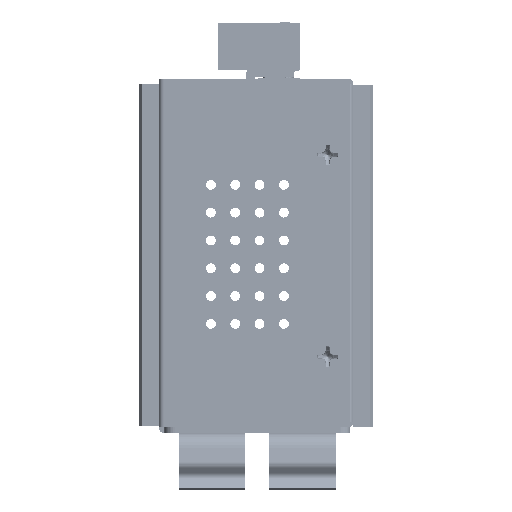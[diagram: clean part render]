
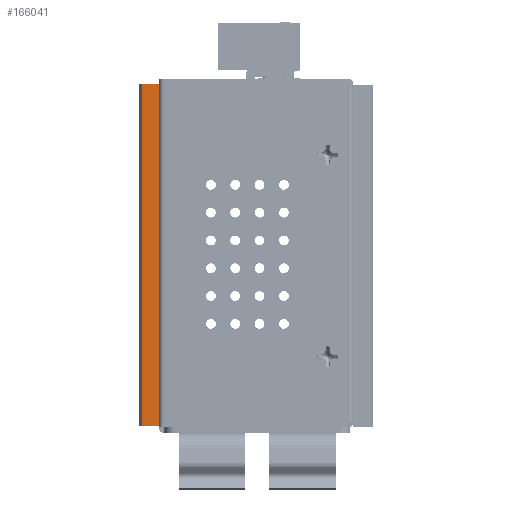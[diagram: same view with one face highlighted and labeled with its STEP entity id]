
A CAD part, left-side view. The second image highlights one B-rep face of the part: STEP entity #166041.
In plain terms, the highlighted planar face has unit normal (-1, 0, 0).
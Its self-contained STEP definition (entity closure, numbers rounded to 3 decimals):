
#15295=FACE_OUTER_BOUND('',#24103,.T.);
#24103=EDGE_LOOP('',(#150358,#150359,#150360,#150361));
#43448=LINE('',#278984,#63127);
#43506=LINE('',#279092,#63185);
#43781=LINE('',#279724,#63460);
#43782=LINE('',#279725,#63461);
#63127=VECTOR('',#220603,10.);
#63185=VECTOR('',#220755,10.);
#63460=VECTOR('',#221326,10.);
#63461=VECTOR('',#221327,10.);
#78657=VERTEX_POINT('',#278978);
#78659=VERTEX_POINT('',#278982);
#78662=VERTEX_POINT('',#279091);
#78871=VERTEX_POINT('',#279723);
#102454=EDGE_CURVE('',#78657,#78659,#43448,.T.);
#102524=EDGE_CURVE('',#78662,#78657,#43506,.T.);
#102841=EDGE_CURVE('',#78871,#78659,#43781,.T.);
#102842=EDGE_CURVE('',#78871,#78662,#43782,.T.);
#150358=ORIENTED_EDGE('',*,*,#102454,.T.);
#150359=ORIENTED_EDGE('',*,*,#102841,.F.);
#150360=ORIENTED_EDGE('',*,*,#102842,.T.);
#150361=ORIENTED_EDGE('',*,*,#102524,.T.);
#157888=PLANE('',#178126);
#166041=ADVANCED_FACE('',(#15295),#157888,.T.);
#178126=AXIS2_PLACEMENT_3D('',#279722,#221324,#221325);
#220603=DIRECTION('',(0.,0.,-1.));
#220755=DIRECTION('',(0.,1.,0.));
#221324=DIRECTION('center_axis',(-1.,0.,0.));
#221325=DIRECTION('ref_axis',(0.,0.,1.));
#221326=DIRECTION('',(0.,1.,0.));
#221327=DIRECTION('',(0.,0.,1.));
#278978=CARTESIAN_POINT('',(-55.,3.,31.375));
#278982=CARTESIAN_POINT('',(-55.,3.,-31.375));
#278984=CARTESIAN_POINT('',(-55.,3.,-31.375));
#279091=CARTESIAN_POINT('',(-55.,0.,31.375));
#279092=CARTESIAN_POINT('',(-55.,0.,31.375));
#279722=CARTESIAN_POINT('Origin',(-55.,0.,-31.375));
#279723=CARTESIAN_POINT('',(-55.,0.,-31.375));
#279724=CARTESIAN_POINT('',(-55.,0.,-31.375));
#279725=CARTESIAN_POINT('',(-55.,0.,-31.375));
